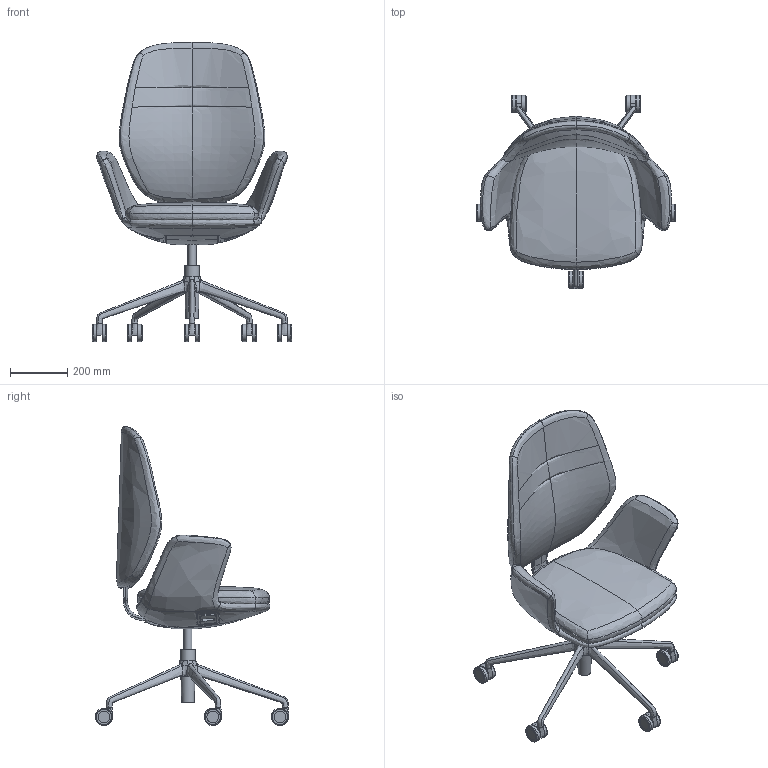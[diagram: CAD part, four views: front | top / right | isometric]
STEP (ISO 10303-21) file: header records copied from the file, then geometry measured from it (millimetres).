
FILE_DESCRIPTION(/* description */ (''),/* implementation_level */ '2;1');
FILE_NAME(/* name */ 'Muuna MU 3101-15',/* time_stamp */ '2020-12-14T11:02:21+01:00',/* author */ (''),/* organization */ (''),/* preprocessor_version */ 'ST-DEVELOPER v16.5',/* originating_system */ '',/* authorisation */ '');
FILE_SCHEMA (('AUTOMOTIVE_DESIGN'));
Length unit declared in the file: millimetre
Products named in the file (1): Document
Bounding box: 697.72 x 675.54 x 1045.1 mm (x, y, z)
Volume: 12456765 mm3; surface area: 2228288.6 mm2
Topology: 4 solids, 37 shells, 435 faces, 1015 edges, 618 vertices
Faces by surface type: bspline 339, plane 96
Entity records: 45255 total; most frequent: CARTESIAN_POINT 39334, ORIENTED_EDGE 1891, EDGE_CURVE 1002, VERTEX_POINT 612, B_SPLINE_CURVE_WITH_KNOTS 460, EDGE_LOOP 452, ADVANCED_FACE 435, FACE_OUTER_BOUND 435
